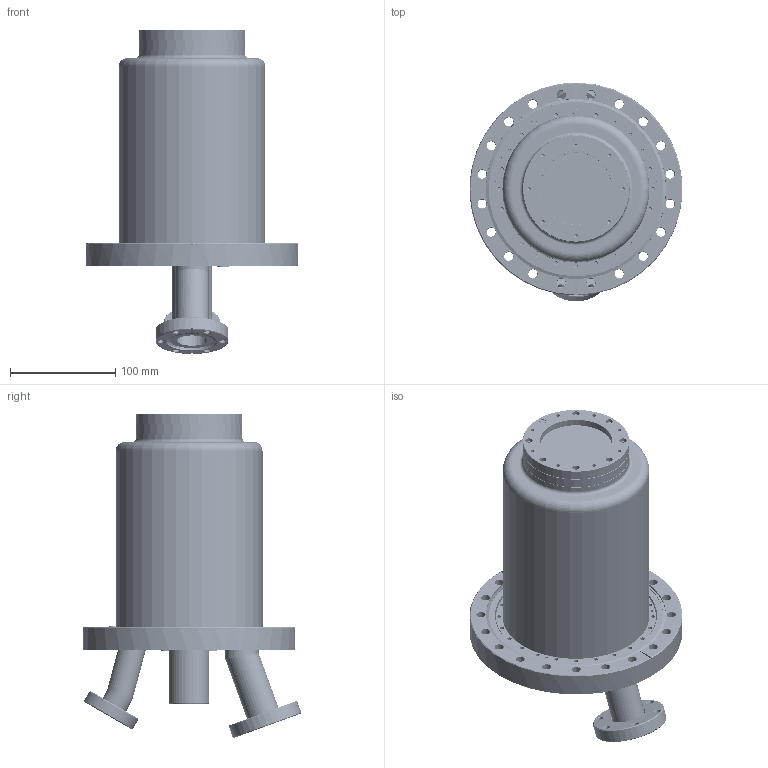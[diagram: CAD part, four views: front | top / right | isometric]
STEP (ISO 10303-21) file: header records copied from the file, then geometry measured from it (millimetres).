
FILE_DESCRIPTION(('Creo Elements/Direct Modeling STEP Export'),'2;1');
FILE_NAME('LBNL-1K-FS-Camera-StandAlone-Chamber-Assembly.stp','2016-06-07T10:34:16',(''),(''),'PTC Creo Elements/Direct Modeling STEP processor for AP214 (Solid Model)','PTC Creo Elements/Direct Modeling 19.0C 15-Aug-2015 (C) Parametric Technology GmbH','');
FILE_SCHEMA(('AUTOMOTIVE_DESIGN { 1 0 10303 214 1 1 1 1 }'));
Length unit declared in the file: millimetre
Products named in the file (446): housing-seal-0.010in-tin; housing-screw-6-32x0.625; Glass-window; Glass-window-frame-01; Glass-window-frame-02; Glass-window-frame-o-ring-parker-2-233-01; Glass-window-frame-o-ring-parker-2-233-02; Glass-window-frame-o-ring-parker-2-233-deformed; housing-screw-6-32x0.812-01; Glass-window-assembly; housing-seal-o-ring-Parker2-050; ARRA-vacuum-housing; housing-blank; Spacer; Katon-metalized-film; Katon-window; Kapton-window-assembly; housing-seal-o-ring-Parker2-041; ARRA-vacuum-housing-w-window.2; pump-port-tube-MDC48006.1; pump-port-tube-MDC48006; camera-standoff-tube-1.5ODx5.0-MDC480006; ARRA-vacuum-flange-MDC110030; pump-port-2.75-flange-MDC110013; spare-port-tube-1.0-MDC480004; camera-standoff-flange-2.75-MDC110014; spare-port-flange-2.12-MDC110007; ARRA-vacuum-flange-weldment; 110002-2-F1.4; 120035.9; 150057_150057-25; SRISD5001-25_SRI_HERMETICS.1; SRIMD5001-51_PIN.2; SRIMD5001-51_PIN.1; p1; p2; p3; p4; p5; p6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
Assembly tree (493 placements, depth 4):
  LBNL-1K-FS-Camera-StandAlone-Chamber-Assembly
    ARRA-vacuum-flange-assembly.2
      SRIMD5001-100-01
        p202
        p201
        p200
        p199
        p198
        p197
        p196
        p195
        p194
        p193
        p192
        p191
        p190
        p189
        p188
        p187
        p186
        p185
        p184
        p183
        p182
        p181
        p180
        p179
        p178
        p177
        p176
        p175
        p174
        p173
        p172
        p171
        p170
        p169
        p168
        p167
        p166
        p165
        p164
        p163
        p162
        p161
        p160
        p159
        p158
        p157
        p156
        p155
        p154
        p153
        p152
        p151
        p150
        p149
        p148
        p147
        p146
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Bounding box: 202.41 x 207.96 x 308.28 mm (x, y, z)
Volume: 1040369.7 mm3; surface area: 555467.6 mm2
Topology: 485 solids, 485 shells, 12718 faces, 32304 edges, 19943 vertices
Faces by surface type: cylinder 6415, cone 2466, torus 2018, plane 1417, sphere 402
Entity records: 475517 total; most frequent: CARTESIAN_POINT 176361, ORIENTED_EDGE 61488, DIRECTION 57952, EDGE_CURVE 30744, AXIS2_PLACEMENT_3D 24152, VERTEX_POINT 19511, EDGE_LOOP 14847, FACE_OUTER_BOUND 12286
